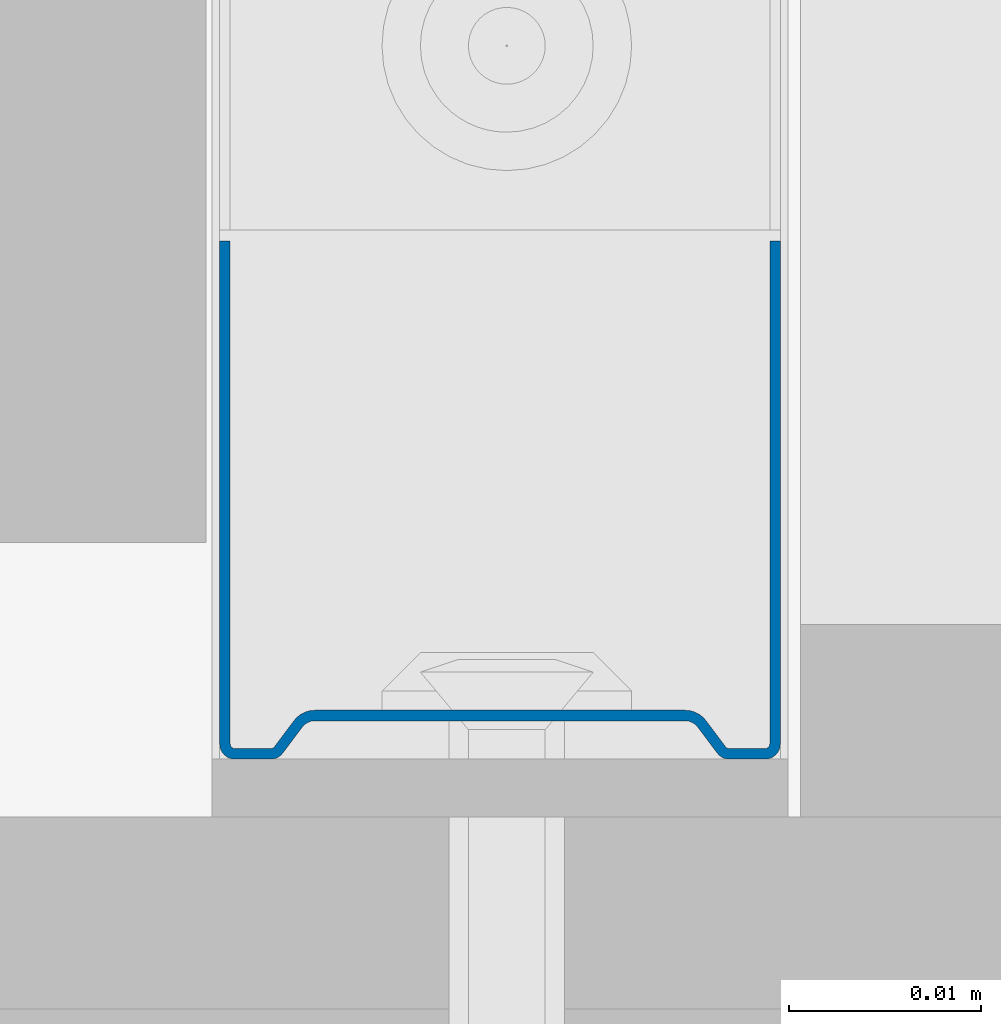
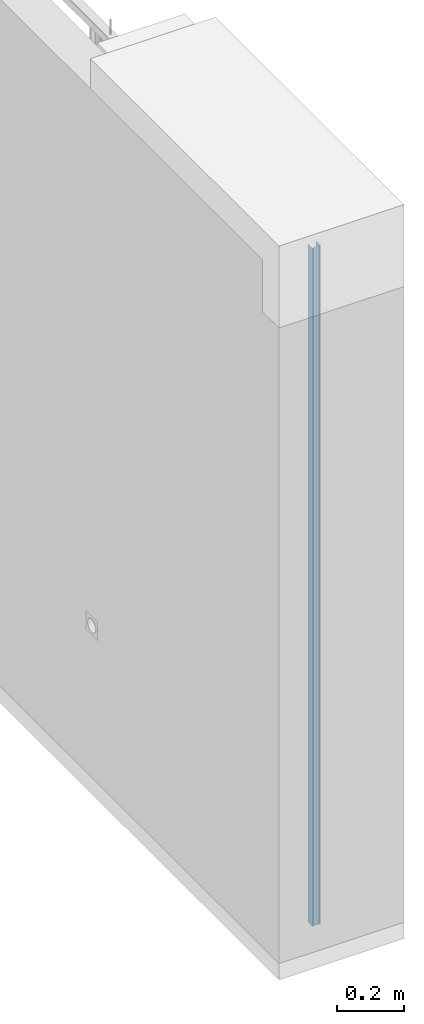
# One storey, part 3 of 61: 1 wall.
"""IFC2X3 building model written with IfcOpenShell, lengths in millimetres."""

from ifc_helpers import new_model, si_unit, frame, origin_with_axes, place, context, subcontext, project, spatial, faceted_brep, material, type_object, element, save


model = new_model("IFC2X3")

# Units and contexts
model_context = context("Model", 3, world=origin_with_axes())
body_context = subcontext(model_context, "Body", "Model", "MODEL_VIEW")
ifc_project = project(units=[si_unit("LENGTHUNIT", "METRE", prefix="MILLI"), si_unit("AREAUNIT", "SQUARE_METRE"), si_unit("VOLUMEUNIT", "CUBIC_METRE")], contexts=[model_context])

# Site, building, storey
site_placement = place(None, frame((2152.1410261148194, -2015.0250894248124, 57.61556563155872), z_axis=(0.0, 0.0, 1.0), x_axis=(-1.1102230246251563e-16, 1.0, 0.0)))
site = spatial("IfcSite", under=ifc_project, at=site_placement, Name="Default Site", CompositionType="ELEMENT")
building_placement = place(site_placement, origin_with_axes())
building = spatial("IfcBuilding", under=site, at=building_placement, Name="Default Building", CompositionType="ELEMENT")
storey_placement = place(building_placement, origin_with_axes())
storey = spatial("IfcBuildingStorey", under=building, at=storey_placement, Name="Default Building Storey", CompositionType="ELEMENT", Elevation=57.61556563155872)

# Wall
ifc_material = material(Name="Undefined9")
wall_type = type_object("IfcWallType", Name="Profil RIGIPS UD 30 GypSerra®/Ultrastil®#2", PredefinedType="NOTDEFINED")
wall_placement = place(storey_placement, frame((2014.0500851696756, 472.8601749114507, 2903.573585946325), z_axis=(1.0, 6.860037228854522e-13, 6.133982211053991e-14), x_axis=(6.133982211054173e-14, -2.6462982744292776e-15, -1.0)))
element("IfcWall", 1, at=wall_placement, inside=storey, type_object=wall_type, material=ifc_material, Name="Profil RIGIPS UD 30 GypSerra®/Ultrastil®", context=body_context, shape_type="Brep", body=[
    faceted_brep([(2898.189556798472, 1469.915986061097, 140.97499847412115), (2898.189556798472, 1469.3660736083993, 140.97499847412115), (2898.18955679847, 1469.3660736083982, 114.77500200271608), (2898.1895567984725, 1469.3758487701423, 114.64985460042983), (2898.1895567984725, 1469.405174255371, 114.52778428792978), (2898.1895567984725, 1469.4532155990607, 114.4118085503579), (2898.1895567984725, 1469.518780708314, 114.30477350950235), (2898.1895567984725, 1469.600319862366, 114.20931667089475), (2898.1895567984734, 1469.6958065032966, 114.12778496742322), (2898.1895567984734, 1469.8028564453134, 114.06219750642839), (2898.1895567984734, 1469.9188470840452, 114.01415616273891), (2898.1895567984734, 1470.0409173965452, 113.98485302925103), (2898.1895567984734, 1470.1660871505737, 113.97500336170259), (2898.1895567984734, 1472.0159769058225, 113.97500336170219), (2898.1895567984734, 1472.1635580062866, 113.98871988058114), (2898.1895567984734, 1472.3060131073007, 114.0294075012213), (2898.1895567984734, 1472.4385738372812, 114.09565806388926), (2898.1895567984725, 1472.5565910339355, 114.1852140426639), (2898.1895567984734, 1472.6560115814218, 114.29499834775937), (2898.1895567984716, 1473.6760854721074, 115.6549975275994), (2898.1895567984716, 1473.7755060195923, 115.7647818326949), (2898.1895567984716, 1473.8935232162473, 115.8543378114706), (2898.189556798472, 1474.0260839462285, 115.92059582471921), (2898.189556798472, 1474.1685390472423, 115.96128344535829), (2898.189556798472, 1474.3160009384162, 115.97499996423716), (2898.1895567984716, 1493.6159849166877, 115.97499996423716), (2898.1895567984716, 1493.7635660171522, 115.96128344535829), (2898.1895567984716, 1493.906021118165, 115.92059582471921), (2898.1895567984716, 1494.0385818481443, 115.8543378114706), (2898.1895567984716, 1494.1565990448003, 115.76478183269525), (2898.1895567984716, 1494.256019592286, 115.6549975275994), (2898.1895567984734, 1495.2759742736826, 114.29499834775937), (2898.1895567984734, 1495.3755140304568, 114.18521404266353), (2898.1895567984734, 1495.4935312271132, 114.09565806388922), (2898.1895567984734, 1495.6260919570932, 114.02940750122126), (2898.1895567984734, 1495.7685470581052, 113.98871988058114), (2898.1895567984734, 1495.9160089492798, 113.97500336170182), (2898.1895567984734, 1497.7660179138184, 113.97500336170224), (2898.1895567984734, 1497.8911876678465, 113.98485302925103), (2898.1895567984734, 1498.0132579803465, 114.01415616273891), (2898.1895567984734, 1498.1292486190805, 114.06219750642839), (2898.1895567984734, 1498.2362985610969, 114.12778496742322), (2898.1895567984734, 1498.331665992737, 114.20931667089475), (2898.1895567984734, 1498.4132051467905, 114.30477350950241), (2898.1895567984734, 1498.4788894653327, 114.41180855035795), (2898.1895567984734, 1498.5269308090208, 114.52778428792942), (2898.1895567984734, 1498.5561370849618, 114.64985460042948), (2898.189556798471, 1498.5660314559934, 114.77500200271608), (2898.189556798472, 1498.5660314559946, 140.97499847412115), (2898.189556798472, 1498.015999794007, 140.97499847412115), (2898.189556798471, 1498.0159997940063, 114.77500200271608), (2898.1895567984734, 1498.0129003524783, 114.73589390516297), (2898.1895567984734, 1498.0038404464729, 114.6977469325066), (2898.1895567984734, 1497.9888200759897, 114.66149985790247), (2898.1895567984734, 1497.9683160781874, 114.62805420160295), (2898.1895567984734, 1497.9428052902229, 114.59822207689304), (2898.1895567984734, 1497.9130029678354, 114.572748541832), (2898.1895567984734, 1497.8795051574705, 114.55225199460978), (2898.1895567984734, 1497.843265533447, 114.53723907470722), (2898.1895567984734, 1497.8051185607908, 114.52807486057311), (2898.1895567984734, 1497.7660179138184, 114.52499777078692), (2898.1895567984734, 1495.9160089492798, 114.52499777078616), (2898.1895567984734, 1495.8698749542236, 114.5292893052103), (2898.1895567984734, 1495.825409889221, 114.54199999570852), (2898.1895567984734, 1495.784044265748, 114.5627051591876), (2898.1895567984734, 1495.7470893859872, 114.59068953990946), (2898.1895567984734, 1495.715975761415, 114.62499946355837), (2898.1895567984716, 1494.696021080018, 115.9849986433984), (2898.189556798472, 1494.5281744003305, 116.17025732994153), (2898.1895567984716, 1494.3289756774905, 116.32138490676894), (2898.1895567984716, 1494.1053390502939, 116.43319576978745), (2898.1895567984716, 1493.8650131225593, 116.50185286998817), (2898.1895567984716, 1493.6159849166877, 116.52500182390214), (2898.189556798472, 1474.3160009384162, 116.52500182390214), (2898.189556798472, 1474.0670919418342, 116.50185286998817), (2898.189556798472, 1473.8266468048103, 116.43319576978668), (2898.189556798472, 1473.603129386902, 116.32138490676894), (2898.189556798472, 1473.4039306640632, 116.17025732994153), (2898.189556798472, 1473.236083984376, 115.9849986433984), (2898.1895567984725, 1472.21601009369, 114.62499946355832), (2898.1895567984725, 1472.184896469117, 114.59068953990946), (2898.1895567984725, 1472.1480607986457, 114.5627051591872), (2898.1895567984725, 1472.1066951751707, 114.54199999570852), (2898.1895567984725, 1472.0621109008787, 114.5292893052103), (2898.1895567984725, 1472.0159769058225, 114.52499777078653), (2898.1895567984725, 1470.1660871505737, 114.52499777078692), (2898.1895567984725, 1470.1268672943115, 114.52807486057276), (2898.1895567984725, 1470.088720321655, 114.53723907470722), (2898.1895567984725, 1470.0524806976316, 114.55225199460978), (2898.1895567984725, 1470.0191020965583, 114.572748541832), (2898.1895567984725, 1469.9892997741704, 114.59822207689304), (2898.1895567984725, 1469.9637889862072, 114.62805420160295), (2898.1895567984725, 1469.9432849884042, 114.66149985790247), (2898.1895567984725, 1469.9282646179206, 114.6977469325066), (2898.1895567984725, 1469.9190855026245, 114.73589390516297), (2898.18955679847, 1469.915986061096, 114.77500200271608), (413.1895640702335, 1469.3660736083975, 114.77500200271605), (413.1895640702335, 1469.3660736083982, 140.97499847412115), (413.1895640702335, 1469.915986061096, 140.97499847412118), (413.1895640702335, 1469.9159860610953, 114.7750020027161), (413.1895640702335, 1469.9190855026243, 114.73589390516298), (413.1895640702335, 1469.9282646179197, 114.69774693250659), (413.1895640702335, 1469.943284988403, 114.6614998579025), (413.1895640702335, 1469.963788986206, 114.62805420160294), (413.1895640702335, 1469.9892997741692, 114.5982220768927), (413.1895640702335, 1470.019102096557, 114.57274854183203), (413.1895640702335, 1470.0524806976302, 114.5522519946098), (413.1895640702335, 1470.0887203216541, 114.53723907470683), (413.1895640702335, 1470.1268672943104, 114.52807486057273), (413.1895640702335, 1470.1660871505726, 114.52499777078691), (413.1895640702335, 1472.0159769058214, 114.52499777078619), (413.1895640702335, 1472.0621109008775, 114.52928930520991), (413.1895640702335, 1472.1066951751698, 114.5419999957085), (413.1895640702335, 1472.1480607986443, 114.56270515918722), (413.1895640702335, 1472.1848964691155, 114.59068953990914), (413.1895640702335, 1472.216010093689, 114.62499946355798), (413.1895640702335, 1473.2360839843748, 115.98499864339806), (413.1895640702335, 1473.403930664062, 116.17025732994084), (413.1895640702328, 1473.6031293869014, 116.32138490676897), (413.1895640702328, 1473.826646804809, 116.4331957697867), (413.1895640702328, 1474.0670919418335, 116.50185286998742), (413.1895640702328, 1474.3160009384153, 116.52500182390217), (413.18956407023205, 1493.6159849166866, 116.52500182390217), (413.18956407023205, 1493.8650131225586, 116.50185286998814), (413.18956407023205, 1494.1053390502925, 116.43319576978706), (413.18956407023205, 1494.3289756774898, 116.32138490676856), (413.1895640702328, 1494.528174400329, 116.1702573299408), (413.1895640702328, 1494.6960210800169, 115.98499864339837), (413.1895640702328, 1495.7159757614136, 114.62499946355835), (413.1895640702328, 1495.7470893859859, 114.59068953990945), (413.1895640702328, 1495.7840442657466, 114.56270515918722), (413.1895640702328, 1495.8254098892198, 114.54199999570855), (413.1895640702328, 1495.869874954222, 114.52928930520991), (413.1895640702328, 1495.9160089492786, 114.52499777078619), (413.1895640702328, 1497.7660179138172, 114.52499777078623), (413.1895640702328, 1497.8051185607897, 114.52807486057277), (413.1895640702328, 1497.8432655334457, 114.53723907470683), (413.1895640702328, 1497.8795051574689, 114.55225199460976), (413.1895640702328, 1497.913002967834, 114.57274854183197), (413.1895640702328, 1497.9428052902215, 114.59822207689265), (413.1895640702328, 1497.968316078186, 114.62805420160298), (413.1895640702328, 1497.9888200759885, 114.6614998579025), (413.1895640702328, 1498.0038404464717, 114.69774693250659), (413.1895640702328, 1498.0129003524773, 114.73589390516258), (413.1895640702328, 1498.0159997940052, 114.77500200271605), (413.1895640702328, 1498.0159997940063, 140.97499847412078), (413.1895640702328, 1498.5660314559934, 140.97499847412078), (413.1895640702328, 1498.5660314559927, 114.7750020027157), (413.1895640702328, 1498.5561370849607, 114.6498546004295), (413.1895640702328, 1498.5269308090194, 114.52778428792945), (413.1895640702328, 1498.4788894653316, 114.41180855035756), (413.1895640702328, 1498.4132051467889, 114.30477350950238), (413.1895640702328, 1498.3316659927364, 114.20931667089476), (413.1895640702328, 1498.236298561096, 114.12778496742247), (413.1895640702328, 1498.1292486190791, 114.06219750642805), (413.18956407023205, 1498.013257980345, 114.01415616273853), (413.1895640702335, 1497.8911876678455, 113.98485302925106), (413.1895640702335, 1497.7660179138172, 113.9750033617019), (413.1895640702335, 1495.9160089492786, 113.97500336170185), (413.1895640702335, 1495.7685470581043, 113.98871988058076), (413.18956407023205, 1495.626091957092, 114.02940750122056), (413.1895640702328, 1495.4935312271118, 114.09565806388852), (413.1895640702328, 1495.375514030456, 114.18521404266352), (413.1895640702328, 1495.2759742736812, 114.29499834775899), (413.1895640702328, 1494.2560195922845, 115.65499752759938), (413.1895640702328, 1494.1565990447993, 115.76478183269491), (413.1895640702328, 1494.0385818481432, 115.85433781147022), (413.1895640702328, 1493.9060211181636, 115.92059582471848), (413.1895640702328, 1493.7635660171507, 115.96128344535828), (413.1895640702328, 1493.6159849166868, 115.97499996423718), (413.1895640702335, 1474.3160009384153, 115.97499996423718), (413.1895640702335, 1474.1685390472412, 115.96128344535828), (413.1895640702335, 1474.0260839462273, 115.92059582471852), (413.1895640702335, 1473.8935232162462, 115.85433781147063), (413.1895640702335, 1473.7755060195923, 115.76478183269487), (413.1895640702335, 1473.6760854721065, 115.65499752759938), (413.1895640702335, 1472.6560115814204, 114.29499834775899), (413.1895640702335, 1472.5565910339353, 114.18521404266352), (413.1895640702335, 1472.43857383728, 114.09565806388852), (413.1895640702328, 1472.3060131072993, 114.02940750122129), (413.1895640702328, 1472.1635580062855, 113.98871988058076), (413.1895640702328, 1472.0159769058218, 113.97500336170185), (413.1895640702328, 1470.1660871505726, 113.97500336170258), (413.1895640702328, 1470.0409173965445, 113.98485302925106), (413.1895640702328, 1469.9188470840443, 114.01415616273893), (413.1895640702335, 1469.802856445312, 114.062197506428), (413.1895640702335, 1469.695806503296, 114.12778496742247), (413.1895640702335, 1469.6003198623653, 114.20931667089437), (413.1895640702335, 1469.5187807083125, 114.30477350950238), (413.1895640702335, 1469.4532155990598, 114.41180855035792), (413.1895640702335, 1469.40517425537, 114.52778428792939), (413.1895640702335, 1469.3758487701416, 114.64985460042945)], [[[0, 1, 2, 3, 4, 5, 6, 7, 8, 9, 10, 11, 12, 13, 14, 15, 16, 17, 18, 19, 20, 21, 22, 23, 24, 25, 26, 27, 28, 29, 30, 31, 32, 33, 34, 35, 36, 37, 38, 39, 40, 41, 42, 43, 44, 45, 46, 47, 48, 49, 50, 51, 52, 53, 54, 55, 56, 57, 58, 59, 60, 61, 62, 63, 64, 65, 66, 67, 68, 69, 70, 71, 72, 73, 74, 75, 76, 77, 78, 79, 80, 81, 82, 83, 84, 85, 86, 87, 88, 89, 90, 91, 92, 93, 94, 95]], [[96, 97, 98, 99, 100, 101, 102, 103, 104, 105, 106, 107, 108, 109, 110, 111, 112, 113, 114, 115, 116, 117, 118, 119, 120, 121, 122, 123, 124, 125, 126, 127, 128, 129, 130, 131, 132, 133, 134, 135, 136, 137, 138, 139, 140, 141, 142, 143, 144, 145, 146, 147, 148, 149, 150, 151, 152, 153, 154, 155, 156, 157, 158, 159, 160, 161, 162, 163, 164, 165, 166, 167, 168, 169, 170, 171, 172, 173, 174, 175, 176, 177, 178, 179, 180, 181, 182, 183, 184, 185, 186, 187, 188, 189, 190, 191]], [[23, 171, 170, 24]], [[22, 172, 171, 23]], [[175, 174, 20, 19]], [[172, 22, 21, 173]], [[20, 174, 173, 21]], [[24, 170, 169, 25]], [[29, 165, 164, 30]], [[165, 29, 28, 166]], [[27, 167, 166, 28]], [[169, 168, 26, 25]], [[26, 168, 167, 27]], [[30, 164, 163, 31]], [[35, 159, 158, 36]], [[34, 160, 159, 35]], [[33, 32, 162, 161]], [[161, 160, 34, 33]], [[163, 162, 32, 31]], [[36, 158, 157, 37]], [[46, 45, 149, 148]], [[148, 147, 47, 46]], [[44, 150, 149, 45]], [[43, 42, 152, 151]], [[151, 150, 44, 43]], [[41, 40, 154, 153]], [[153, 152, 42, 41]], [[39, 155, 154, 40]], [[38, 37, 157, 156]], [[156, 155, 39, 38]], [[47, 147, 146, 48]], [[48, 146, 145, 49]], [[49, 145, 144, 50]], [[134, 60, 59, 135]], [[58, 136, 135, 59]], [[57, 137, 136, 58]], [[137, 57, 56, 138]], [[55, 139, 138, 56]], [[139, 55, 54, 140]], [[53, 141, 140, 54]], [[52, 142, 141, 53]], [[142, 52, 51, 143]], [[50, 144, 143, 51]], [[60, 134, 133, 61]], [[65, 129, 128, 66]], [[129, 65, 64, 130]], [[63, 131, 130, 64]], [[133, 132, 62, 61]], [[62, 132, 131, 63]], [[66, 128, 127, 67]], [[71, 123, 122, 72]], [[70, 69, 125, 124]], [[124, 123, 71, 70]], [[68, 126, 125, 69]], [[127, 126, 68, 67]], [[72, 122, 121, 73]], [[77, 117, 116, 78]], [[76, 118, 117, 77]], [[75, 74, 120, 119]], [[119, 118, 76, 75]], [[121, 120, 74, 73]], [[78, 116, 115, 79]], [[83, 111, 110, 84]], [[82, 112, 111, 83]], [[115, 114, 80, 79]], [[112, 82, 81, 113]], [[80, 114, 113, 81]], [[84, 110, 109, 85]], [[99, 95, 94, 100]], [[93, 101, 100, 94]], [[92, 102, 101, 93]], [[102, 92, 91, 103]], [[90, 104, 103, 91]], [[104, 90, 89, 105]], [[88, 106, 105, 89]], [[87, 107, 106, 88]], [[107, 87, 86, 108]], [[85, 109, 108, 86]], [[95, 99, 98, 0]], [[0, 98, 97, 1]], [[1, 97, 96, 2]], [[11, 10, 184, 183]], [[183, 182, 12, 11]], [[9, 185, 184, 10]], [[6, 5, 189, 188]], [[7, 6, 188, 187]], [[8, 7, 187, 186]], [[186, 185, 9, 8]], [[4, 190, 189, 5]], [[3, 2, 96, 191]], [[191, 190, 4, 3]], [[12, 182, 181, 13]], [[17, 177, 176, 18]], [[16, 15, 179, 178]], [[178, 177, 17, 16]], [[14, 180, 179, 15]], [[181, 180, 14, 13]], [[18, 176, 175, 19]]]),
])

save(model, "model.ifc")
